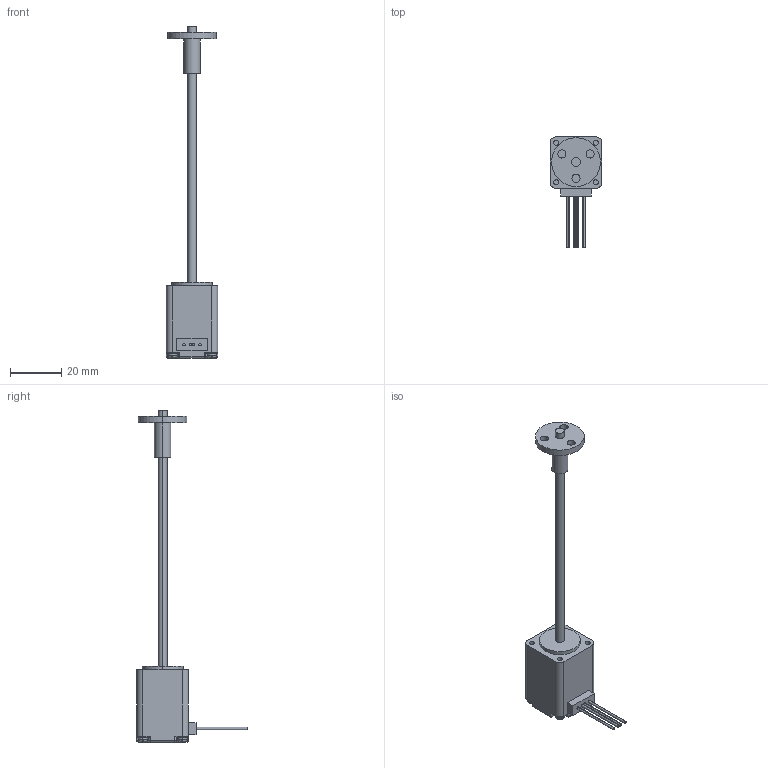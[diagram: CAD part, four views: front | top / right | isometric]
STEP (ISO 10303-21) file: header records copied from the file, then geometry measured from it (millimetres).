
FILE_DESCRIPTION (( 'STEP AP214' ), '1' );
FILE_NAME ('AMETEK-E21H4U-2.5-4-12.STEP', '2019-03-25T12:56:04', ( '' ), ( '' ), 'SwSTEP 2.0', 'SolidWorks 2019', '' );
FILE_SCHEMA (( 'AUTOMOTIVE_DESIGN' ));
Length unit declared in the file: inch
Products named in the file (3): AMETEK-E21H4U-2.5-4-12_21000_External_Linear; AMETEK-E21H4U-2.5-4-12_21000_External_Linear_Nut; AMETEK-E21H4U-2.5-4-12
Assembly tree (2 placements, depth 2):
  AMETEK-E21H4U-2.5-4-12
    AMETEK-E21H4U-2.5-4-12_21000_External_Linear
    AMETEK-E21H4U-2.5-4-12_21000_External_Linear_Nut
Bounding box: 20.2 x 43.2 x 129.8 mm (x, y, z)
Volume: 13356 mm3; surface area: 6158.1 mm2
Topology: 3 solids, 3 shells, 202 faces, 500 edges, 312 vertices
Faces by surface type: plane 90, cylinder 80, torus 24, sphere 8
Entity records: 8710 total; most frequent: CARTESIAN_POINT 1291, DIRECTION 1066, ORIENTED_EDGE 984, EDGE_CURVE 492, AXIS2_PLACEMENT_3D 407, VERTEX_POINT 312, VECTOR 252, LINE 252
